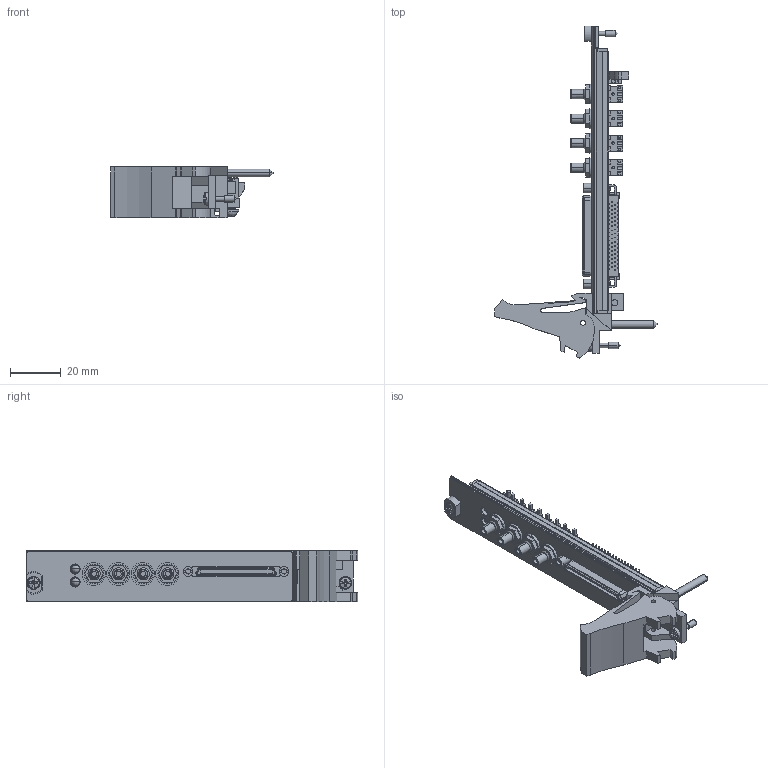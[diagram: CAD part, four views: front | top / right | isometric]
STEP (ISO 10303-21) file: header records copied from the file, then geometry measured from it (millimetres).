
FILE_DESCRIPTION((''),'2;1');
FILE_NAME('CU_PXI-5422','2009-09-30T',('jjorden'),(''),'PRO/ENGINEER BY PARAMETRIC TECHNOLOGY CORPORATION, 2006080','PRO/ENGINEER BY PARAMETRIC TECHNOLOGY CORPORATION, 2006080','');
FILE_SCHEMA(('CONFIG_CONTROL_DESIGN'));
Length unit declared in the file: inch
Products named in the file (1): CU_PXI-5422
Bounding box: 63.73 x 130.51 x 20.31 mm (x, y, z)
Volume: 18909.2 mm3; surface area: 21074.6 mm2
Topology: 2 solids, 2 shells, 2081 faces, 5719 edges, 3710 vertices
Faces by surface type: plane 1594, cylinder 415, cone 38, bspline 13, sphere 12, torus 7, extrusion 2
Entity records: 67325 total; most frequent: CARTESIAN_POINT 13245, ORIENTED_EDGE 11414, DIRECTION 10810, EDGE_CURVE 5707, VECTOR 4602, LINE 4600, VERTEX_POINT 3729, AXIS2_PLACEMENT_3D 3104
